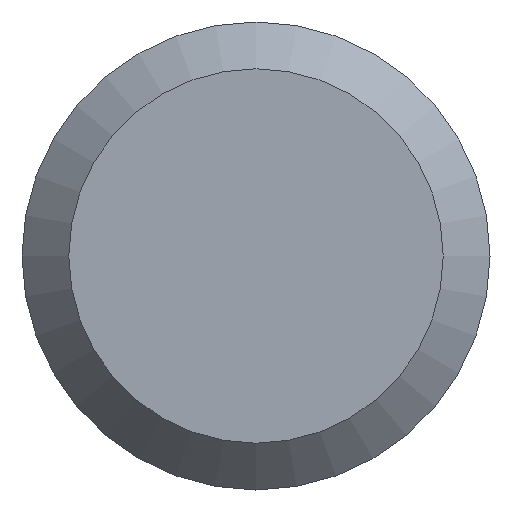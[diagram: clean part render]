
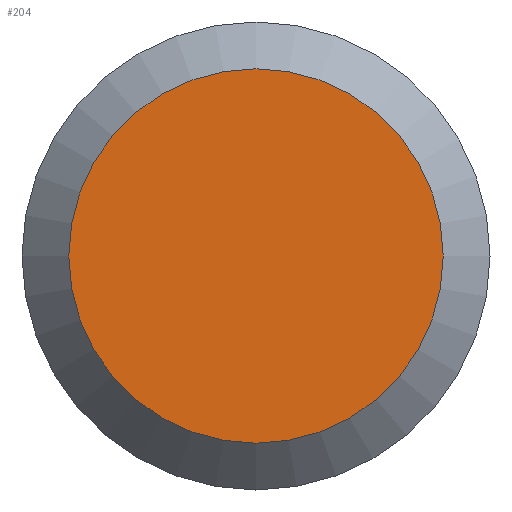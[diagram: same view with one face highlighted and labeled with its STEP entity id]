
A CAD part, left-side view. The second image highlights one B-rep face of the part: STEP entity #204.
In plain terms, the highlighted planar face has unit normal (-1, 0, 0).
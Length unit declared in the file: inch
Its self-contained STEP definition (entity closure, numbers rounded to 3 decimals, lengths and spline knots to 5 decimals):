
#11 = ORIENTED_EDGE ( 'NONE', *, *, #116, .T. ) ;
#49 = VERTEX_POINT ( 'NONE', #248 ) ;
#56 = AXIS2_PLACEMENT_3D ( 'NONE', #195, #173, #177 ) ;
#58 = FACE_OUTER_BOUND ( 'NONE', #87, .T. ) ;
#64 = DIRECTION ( 'NONE',  ( 0., 0., -1. ) ) ;
#87 = EDGE_LOOP ( 'NONE', ( #11 ) ) ;
#107 = CIRCLE ( 'NONE', #163, 0.0344 ) ;
#116 = EDGE_CURVE ( 'NONE', #49, #49, #107, .T. ) ;
#125 = DIRECTION ( 'NONE',  ( -1., 0., 0. ) ) ;
#163 = AXIS2_PLACEMENT_3D ( 'NONE', #211, #125, #64 ) ;
#173 = DIRECTION ( 'NONE',  ( 1., 0., 0. ) ) ;
#177 = DIRECTION ( 'NONE',  ( 0., 0., -1. ) ) ;
#195 = CARTESIAN_POINT ( 'NONE',  ( 0., 0.043, 0. ) ) ;
#198 = PLANE ( 'NONE',  #56 ) ;
#204 = ADVANCED_FACE ( 'NONE', ( #58 ), #198, .F. ) ;
#211 = CARTESIAN_POINT ( 'NONE',  ( 0., 0., 0. ) ) ;
#248 = CARTESIAN_POINT ( 'NONE',  ( 0., 0., -0.0344 ) ) ;
